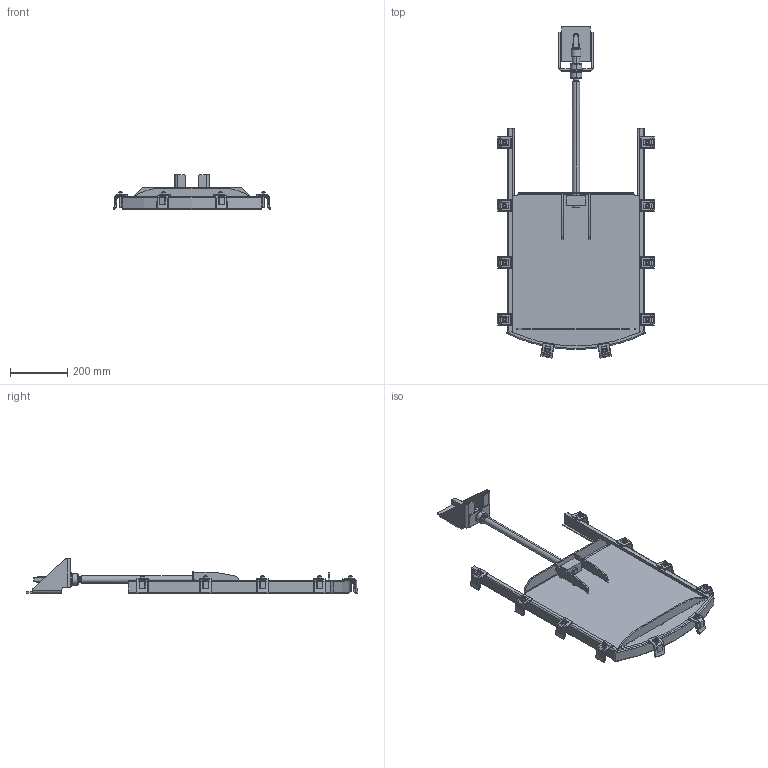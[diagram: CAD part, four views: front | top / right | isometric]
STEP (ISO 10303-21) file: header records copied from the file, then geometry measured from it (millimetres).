
FILE_DESCRIPTION (( 'STEP AP214' ), '1' );
FILE_NAME ('LW 400 gerad klemmen.STEP', '2022-05-19T05:34:59', ( '' ), ( '' ), 'SwSTEP 2.0', 'SolidWorks 2021', '' );
FILE_SCHEMA (( 'AUTOMOTIVE_DESIGN' ));
Length unit declared in the file: millimetre
Products named in the file (1): LW 400 gerad klemmen
Bounding box: 549.57 x 1164.84 x 121 mm (x, y, z)
Volume: 3826991.5 mm3; surface area: 1134281.3 mm2
Topology: 1 solids, 1 shells, 1583 faces, 3710 edges, 2068 vertices
Faces by surface type: cylinder 623, plane 446, cone 146, sphere 138, torus 128, bspline 102
Entity records: 66130 total; most frequent: CARTESIAN_POINT 13976, DIRECTION 7553, ORIENTED_EDGE 7132, EDGE_CURVE 3566, AXIS2_PLACEMENT_3D 3017, VERTEX_POINT 2048, EDGE_LOOP 1680, UNCERTAINTY_MEASURE_WITH_UNIT 1586
